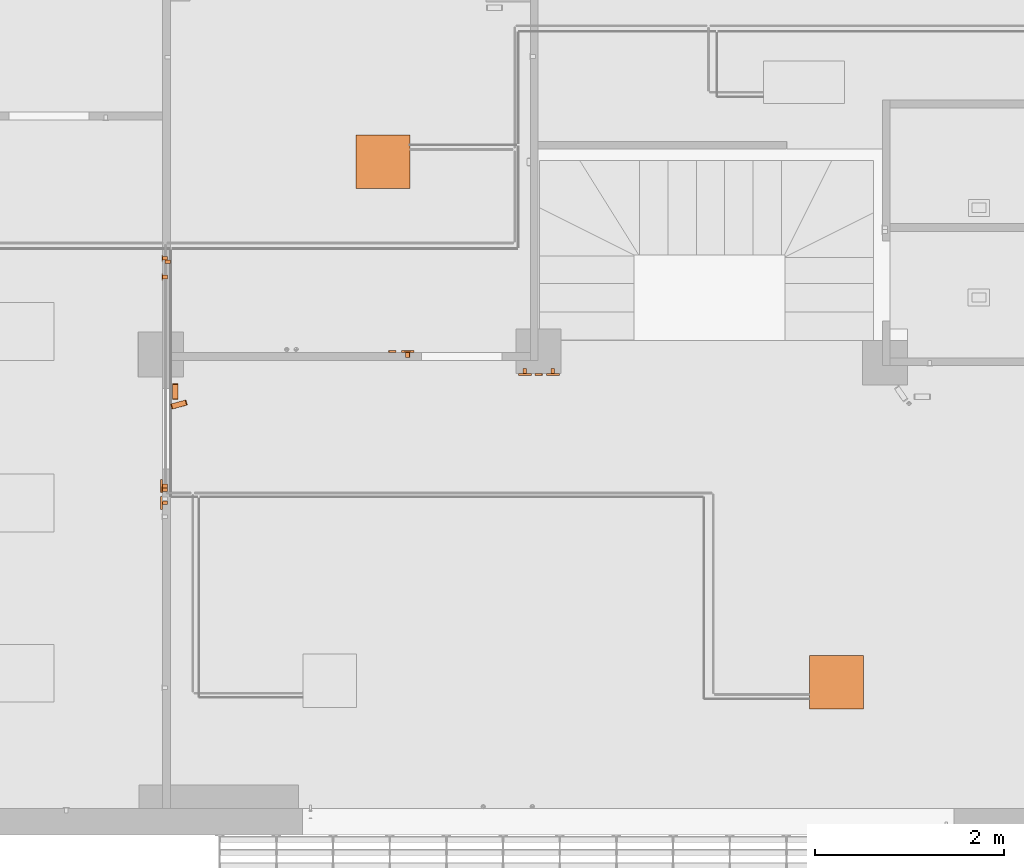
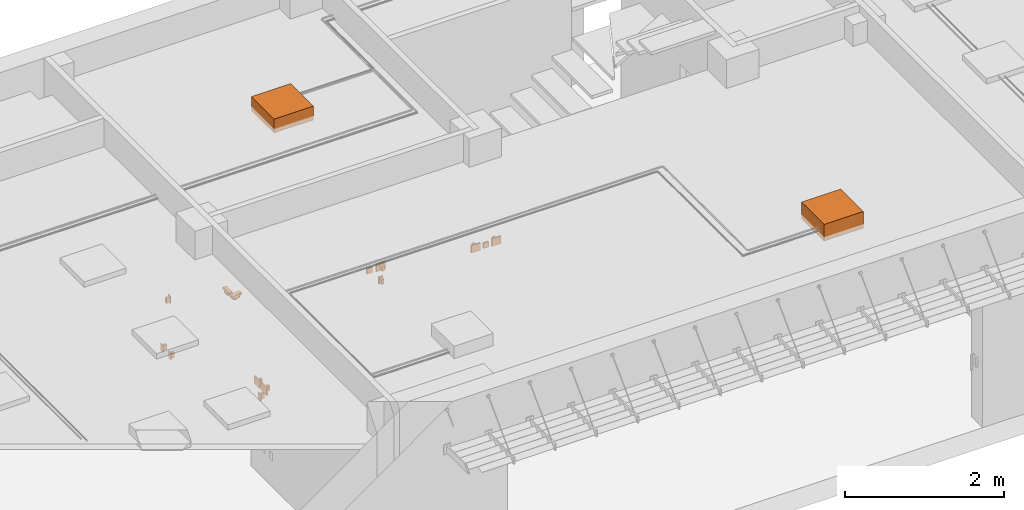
# One storey, part 21 of 24: 16 proxies.
"""IFC2X3 building model written with IfcOpenShell, lengths in millimetres."""

from ifc_helpers import new_model, entity, si_unit, converted_unit, derived_unit, direction, frame, frame_2d, origin, origin_2d_with_axis, place, context, subcontext, project, spatial, polyline, circle_curve, parameter, trimmed, segment, composite_curve, rectangle, circle, outline, extrude, source, transform, mapped, material, material_list, type_object, type_shapes, element, save


model = new_model("IFC2X3")

# Units and contexts
model_context = context("Model", 3, precision=0.01, world=origin(), true_north=direction((6.123031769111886e-17, 1.0)))
body_context = subcontext(model_context, "Body", "Model", "MODEL_VIEW")
ifc_project = project(units=[si_unit("LENGTHUNIT", "METRE", prefix="MILLI"), si_unit("AREAUNIT", "SQUARE_METRE"), si_unit("VOLUMEUNIT", "CUBIC_METRE"), converted_unit("PLANEANGLEUNIT", "DEGREE", entity("IfcRatioMeasure", 0.017453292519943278), si_unit("PLANEANGLEUNIT", "RADIAN"), dimensions=[0, 0, 0, 0, 0, 0, 0]), si_unit("MASSUNIT", "GRAM", prefix="KILO"), derived_unit("MASSDENSITYUNIT", [(si_unit("MASSUNIT", "GRAM", prefix="KILO"), 1), (si_unit("LENGTHUNIT", "METRE"), -3)]), derived_unit("MOMENTOFINERTIAUNIT", [(si_unit("LENGTHUNIT", "METRE"), 4)]), si_unit("TIMEUNIT", "SECOND"), si_unit("FREQUENCYUNIT", "HERTZ"), si_unit("THERMODYNAMICTEMPERATUREUNIT", "DEGREE_CELSIUS"), derived_unit("THERMALTRANSMITTANCEUNIT", [(si_unit("MASSUNIT", "GRAM", prefix="KILO"), 1), (si_unit("THERMODYNAMICTEMPERATUREUNIT", "KELVIN"), -1), (si_unit("TIMEUNIT", "SECOND"), -3)]), derived_unit("VOLUMETRICFLOWRATEUNIT", [(si_unit("LENGTHUNIT", "METRE"), 3), (si_unit("TIMEUNIT", "SECOND"), -1)]), derived_unit("MASSFLOWRATEUNIT", [(si_unit("MASSUNIT", "GRAM", prefix="KILO"), 1), (si_unit("TIMEUNIT", "SECOND"), -1)]), derived_unit("ROTATIONALFREQUENCYUNIT", [(si_unit("TIMEUNIT", "SECOND"), -1)]), si_unit("ELECTRICCURRENTUNIT", "AMPERE"), si_unit("ELECTRICVOLTAGEUNIT", "VOLT"), si_unit("POWERUNIT", "WATT"), si_unit("FORCEUNIT", "NEWTON", prefix="KILO"), si_unit("ILLUMINANCEUNIT", "LUX"), si_unit("LUMINOUSFLUXUNIT", "LUMEN"), si_unit("LUMINOUSINTENSITYUNIT", "CANDELA"), derived_unit("USERDEFINED", [(si_unit("MASSUNIT", "GRAM", prefix="KILO"), -1), (si_unit("LENGTHUNIT", "METRE"), -2), (si_unit("TIMEUNIT", "SECOND"), 3), (si_unit("LUMINOUSFLUXUNIT", "LUMEN"), 1)]), derived_unit("SOUNDPOWERUNIT", [(si_unit("MASSUNIT", "GRAM", prefix="KILO"), 1), (si_unit("LENGTHUNIT", "METRE"), 2), (si_unit("TIMEUNIT", "SECOND"), -3)]), derived_unit("SOUNDPRESSUREUNIT", [(si_unit("MASSUNIT", "GRAM", prefix="KILO"), 1), (si_unit("LENGTHUNIT", "METRE"), -1), (si_unit("TIMEUNIT", "SECOND"), -2)]), derived_unit("LINEARVELOCITYUNIT", [(si_unit("LENGTHUNIT", "METRE"), 1), (si_unit("TIMEUNIT", "SECOND"), -1)]), si_unit("PRESSUREUNIT", "PASCAL"), derived_unit("USERDEFINED", [(si_unit("LENGTHUNIT", "METRE"), -2), (si_unit("MASSUNIT", "GRAM", prefix="KILO"), 1), (si_unit("TIMEUNIT", "SECOND"), -2)]), derived_unit("LINEARFORCEUNIT", [(si_unit("MASSUNIT", "GRAM", prefix="KILO"), 1), (si_unit("LENGTHUNIT", "METRE"), 1), (si_unit("TIMEUNIT", "SECOND"), -2), (si_unit("LENGTHUNIT", "METRE"), -1)]), derived_unit("PLANARFORCEUNIT", [(si_unit("MASSUNIT", "GRAM", prefix="KILO"), 1), (si_unit("LENGTHUNIT", "METRE"), 1), (si_unit("TIMEUNIT", "SECOND"), -2), (si_unit("LENGTHUNIT", "METRE"), -2)])], contexts=[model_context])

# Site, building, storey
site_placement = place(None, origin())
site = spatial("IfcSite", under=ifc_project, at=site_placement, Name="Default", CompositionType="ELEMENT")
building_placement = place(site_placement, origin())
building = spatial("IfcBuilding", under=site, at=building_placement, CompositionType="ELEMENT")
storey_placement = place(building_placement, origin())
storey = spatial("IfcBuildingStorey", under=building, at=storey_placement, Name="Level 1", CompositionType="ELEMENT", Elevation=0.0)

# Proxies
ifc_material_1 = material(Name="<Unnamed>")
ifc_material_list_1 = material_list([ifc_material_1, ifc_material_1])
ifc_material_list_2 = material_list([ifc_material_1, ifc_material_1])
building_element_proxy_type_1 = type_object("IfcBuildingElementProxyType", Name="M_Receptacle - 220V:Standard:Standard : M_Receptacle - 220V:Standard", PredefinedType="NOTDEFINED", material=ifc_material_list_2)
shared_shape_1 = source(origin(), body_context, "Body", "SweptSolid", [
    extrude(rectangle(XDim=38.09999999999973, YDim=53.97500000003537, at=frame_2d((1.3500311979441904e-13, 0.0), x_axis=(1.0, 0.0))), frame((-3830.3682787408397, 2031.36724634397, 421.89999999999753), z_axis=(0.0, 0.0, 1.0), x_axis=(0.0, 1.0, 0.0)), (0.0, 0.0, 1.0), 76.20000000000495),
    extrude(rectangle(XDim=69.84999999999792, YDim=4.762499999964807, at=frame_2d((1.3855583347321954e-13, 2.708944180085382e-13), x_axis=(1.0, 0.0))), frame((-3859.7370287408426, 2031.36724634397, 402.84999999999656), z_axis=(0.0, 0.0, 1.0), x_axis=(0.0, 1.0, 0.0)), (0.0, 0.0, 1.0), 114.30000000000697),
])
type_shapes(building_element_proxy_type_1, [shared_shape_1])
proxy_1_placement = place(storey_placement, origin())
element("IfcBuildingElementProxy", 1, at=proxy_1_placement, inside=storey, type_object=building_element_proxy_type_1, material=ifc_material_list_1, Name="M_Receptacle - 220V:Standard:Standard : M_Receptacle - 220V:Standard:Standard:Standard : M_Receptacle - 220V:Standard : M_Receptacle - 220V:Standard:Standard : M_Receptacle - 220V:Standard", ObjectType="M_Receptacle - 220V:Standard:Standard : M_Receptacle - 220V:Standard:Standard:Standard : M_Receptacle - 220V:Standard : M_Receptacle - 220V:Standard:Standard : M_Receptacle - 220V:Standard", context=body_context, shape_type="MappedRepresentation", body=[
    mapped(shared_shape_1, transform((0.0, 0.0, 0.0), scale=1.0)),
])
ifc_material_list_3 = material_list([ifc_material_1, ifc_material_1])
ifc_material_list_4 = material_list([ifc_material_1, ifc_material_1])
building_element_proxy_type_2 = type_object("IfcBuildingElementProxyType", Name="M_Receptacle - 220V:Standard:Standard : M_Receptacle - 220V:Standard", PredefinedType="NOTDEFINED", material=ifc_material_list_4)
shared_shape_2 = source(origin(), body_context, "Body", "SweptSolid", [
    extrude(rectangle(XDim=38.09999999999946, YDim=53.97500000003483, at=frame_2d((0.0, 2.7000623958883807e-13), x_axis=(1.0, 0.0))), frame((-3830.36827874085, 1831.36724634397, 421.89999999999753), z_axis=(0.0, 0.0, 1.0), x_axis=(0.0, 1.0, 0.0)), (0.0, 0.0, 1.0), 76.20000000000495),
    extrude(rectangle(XDim=69.84999999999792, YDim=4.762499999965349, at=frame_2d((1.3855583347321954e-13, 0.0), x_axis=(1.0, 0.0))), frame((-3859.737028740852, 1831.36724634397, 402.84999999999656), z_axis=(0.0, 0.0, 1.0), x_axis=(0.0, 1.0, 0.0)), (0.0, 0.0, 1.0), 114.30000000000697),
])
type_shapes(building_element_proxy_type_2, [shared_shape_2])
proxy_2_placement = place(storey_placement, origin())
element("IfcBuildingElementProxy", 2, at=proxy_2_placement, inside=storey, type_object=building_element_proxy_type_2, material=ifc_material_list_3, Name="M_Receptacle - 220V:Standard:Standard : M_Receptacle - 220V:Standard:Standard:Standard : M_Receptacle - 220V:Standard : M_Receptacle - 220V:Standard:Standard : M_Receptacle - 220V:Standard", ObjectType="M_Receptacle - 220V:Standard:Standard : M_Receptacle - 220V:Standard:Standard:Standard : M_Receptacle - 220V:Standard : M_Receptacle - 220V:Standard:Standard : M_Receptacle - 220V:Standard", context=body_context, shape_type="MappedRepresentation", body=[
    mapped(shared_shape_2, transform((0.0, 0.0, 0.0), scale=1.0)),
])
ifc_material_list_5 = material_list([ifc_material_1, ifc_material_1])
ifc_material_list_6 = material_list([ifc_material_1, ifc_material_1])
building_element_proxy_type_3 = type_object("IfcBuildingElementProxyType", Name="M_Lighting Switches:Three Way:Three Way : M_Lighting Switches:Three Way", PredefinedType="NOTDEFINED", material=ifc_material_list_6)
shared_shape_3 = source(origin(), body_context, "Body", "SweptSolid", [
    extrude(rectangle(XDim=38.099999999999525, YDim=53.97500000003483, at=frame_2d((3.375077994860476e-14, 2.7000623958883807e-13), x_axis=(1.0, 0.0))), frame((-3830.36827874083, -422.95489747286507, 1161.8999999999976), z_axis=(0.0, 0.0, 1.0), x_axis=(0.0, 1.0, 0.0)), (0.0, 0.0, 1.0), 76.20000000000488),
    extrude(rectangle(XDim=69.849999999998, YDim=4.762499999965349, at=frame_2d((-3.197442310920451e-14, 0.0), x_axis=(1.0, 0.0))), frame((-3859.7370287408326, -422.954897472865, 1142.8499999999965), z_axis=(0.0, 0.0, 1.0), x_axis=(0.0, 1.0, 0.0)), (0.0, 0.0, 1.0), 114.30000000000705),
])
type_shapes(building_element_proxy_type_3, [shared_shape_3])
proxy_3_placement = place(storey_placement, origin())
element("IfcBuildingElementProxy", 3, at=proxy_3_placement, inside=storey, type_object=building_element_proxy_type_3, material=ifc_material_list_5, Name="M_Lighting Switches:Three Way:Three Way : M_Lighting Switches:Three Way:Three Way:Three Way : M_Lighting Switches:Three Way : M_Lighting Switches:Three Way:Three Way : M_Lighting Switches:Three Way", ObjectType="M_Lighting Switches:Three Way:Three Way : M_Lighting Switches:Three Way:Three Way:Three Way : M_Lighting Switches:Three Way : M_Lighting Switches:Three Way:Three Way : M_Lighting Switches:Three Way", context=body_context, shape_type="MappedRepresentation", body=[
    mapped(shared_shape_3, transform((0.0, 0.0, 0.0), scale=1.0)),
])
ifc_material_list_7 = material_list([ifc_material_1, ifc_material_1])
ifc_material_list_8 = material_list([ifc_material_1, ifc_material_1])
building_element_proxy_type_4 = type_object("IfcBuildingElementProxyType", Name="Thermostat Kripis v3:Standard:Standard : Thermostat Kripis v3:Standard", PredefinedType="NOTDEFINED", material=ifc_material_list_8)
shared_shape_4 = source(origin(), body_context, "Body", "SweptSolid", [
    extrude(rectangle(XDim=38.09999999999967, YDim=53.97500000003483, at=frame_2d((3.375077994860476e-14, 2.7000623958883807e-13), x_axis=(1.0, 0.0))), frame((-3830.36827874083, -557.929558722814, 1361.8999999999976), z_axis=(0.0, 0.0, 1.0), x_axis=(0.0, 1.0, 0.0)), (0.0, 0.0, 1.0), 76.20000000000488),
    extrude(rectangle(XDim=136.02499999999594, YDim=20.73336860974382, at=frame_2d((3.552713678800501e-14, 0.0), x_axis=(1.0, 0.0))), frame((-3867.7224630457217, -559.9920587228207, 1342.8499999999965), z_axis=(0.0, 0.0, 1.0), x_axis=(0.0, 1.0, 0.0)), (0.0, 0.0, 1.0), 114.30000000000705),
])
type_shapes(building_element_proxy_type_4, [shared_shape_4])
proxy_4_placement = place(storey_placement, origin())
element("IfcBuildingElementProxy", 4, at=proxy_4_placement, inside=storey, type_object=building_element_proxy_type_4, material=ifc_material_list_7, Name="Thermostat Kripis v3:Standard:Standard : Thermostat Kripis v3:Standard:Standard:Standard : Thermostat Kripis v3:Standard : Thermostat Kripis v3:Standard:Standard : Thermostat Kripis v3:Standard", ObjectType="Thermostat Kripis v3:Standard:Standard : Thermostat Kripis v3:Standard:Standard:Standard : Thermostat Kripis v3:Standard : Thermostat Kripis v3:Standard:Standard : Thermostat Kripis v3:Standard", context=body_context, shape_type="MappedRepresentation", body=[
    mapped(shared_shape_4, transform((0.0, 0.0, 0.0), scale=1.0)),
])
ifc_material_list_9 = material_list([ifc_material_1, ifc_material_1])
ifc_material_list_10 = material_list([ifc_material_1, ifc_material_1])
building_element_proxy_type_5 = type_object("IfcBuildingElementProxyType", Name="Thermostat Kripis v3:Standard:Standard : Thermostat Kripis v3:Standard", PredefinedType="NOTDEFINED", material=ifc_material_list_10)
shared_shape_5 = source(origin(), body_context, "Body", "SweptSolid", [
    extrude(rectangle(XDim=38.099999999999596, YDim=53.97500000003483, at=frame_2d((0.0, 2.7000623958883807e-13), x_axis=(1.0, 0.0))), frame((-3830.3682787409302, -380.838486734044, 1361.8999999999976), z_axis=(0.0, 0.0, 1.0), x_axis=(0.0, 1.0, 0.0)), (0.0, 0.0, 1.0), 76.20000000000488),
    extrude(rectangle(XDim=136.02499999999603, YDim=20.73336860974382, at=origin_2d_with_axis()), frame((-3867.7224630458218, -382.9009867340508, 1342.8499999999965), z_axis=(0.0, 0.0, 1.0), x_axis=(0.0, 1.0, 0.0)), (0.0, 0.0, 1.0), 114.30000000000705),
])
type_shapes(building_element_proxy_type_5, [shared_shape_5])
proxy_5_placement = place(storey_placement, origin())
element("IfcBuildingElementProxy", 5, at=proxy_5_placement, inside=storey, type_object=building_element_proxy_type_5, material=ifc_material_list_9, Name="Thermostat Kripis v3:Standard:Standard : Thermostat Kripis v3:Standard:Standard:Standard : Thermostat Kripis v3:Standard : Thermostat Kripis v3:Standard:Standard : Thermostat Kripis v3:Standard", ObjectType="Thermostat Kripis v3:Standard:Standard : Thermostat Kripis v3:Standard:Standard:Standard : Thermostat Kripis v3:Standard : Thermostat Kripis v3:Standard:Standard : Thermostat Kripis v3:Standard", context=body_context, shape_type="MappedRepresentation", body=[
    mapped(shared_shape_5, transform((0.0, 0.0, 0.0), scale=1.0)),
])
building_element_proxy_type_6 = type_object("IfcBuildingElementProxyType", Name="Indoor LG 4way simple box KRIPIS v3 SYSTEMS:ARNU07GTRC4:ARNU07GTRC4 : Indoor LG 4way simple box KRIPIS v3 SYSTEMS:ARNU07GTRC4", PredefinedType="NOTDEFINED", material=ifc_material_1)
shared_shape_6 = source(origin(), body_context, "Body", "SweptSolid", [
    extrude(rectangle(XDim=570.0000000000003, YDim=569.9999999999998, at=origin_2d_with_axis()), frame((-1524.85540967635, 3051.41352676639, 2590.0), z_axis=(0.0, 0.0, 1.0), x_axis=(0.0, -1.0, 0.0)), (0.0, 0.0, 1.0), 214.00000000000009),
])
type_shapes(building_element_proxy_type_6, [shared_shape_6])
proxy_6_placement = place(storey_placement, origin())
element("IfcBuildingElementProxy", 6, at=proxy_6_placement, inside=storey, type_object=building_element_proxy_type_6, material=ifc_material_1, context=body_context, shape_type="MappedRepresentation", body=[
    mapped(shared_shape_6, transform((0.0, 0.0, 0.0), scale=1.0)),
])
ifc_material_list_11 = material_list([ifc_material_1, ifc_material_1])
ifc_material_list_12 = material_list([ifc_material_1, ifc_material_1])
building_element_proxy_type_7 = type_object("IfcBuildingElementProxyType", Name="M_Lighting Switches:Single Pole:Single Pole : M_Lighting Switches:Single Pole", PredefinedType="NOTDEFINED", material=ifc_material_list_12)
shared_shape_7 = source(origin(), body_context, "Body", "SweptSolid", [
    extrude(rectangle(XDim=38.09999999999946, YDim=53.975000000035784, at=frame_2d((0.0, -6.750155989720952e-14), x_axis=(1.0, 0.0))), frame((-1263.46254814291, 1004.3797463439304, 1161.8999999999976)), (0.0, 0.0, 1.0), 76.20000000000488),
    extrude(rectangle(XDim=69.8499999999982, YDim=4.762499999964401, at=frame_2d((0.0, -6.772360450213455e-14), x_axis=(1.0, 0.0))), frame((-1263.46254814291, 1033.7484963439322, 1142.8499999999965)), (0.0, 0.0, 1.0), 114.30000000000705),
])
type_shapes(building_element_proxy_type_7, [shared_shape_7])
proxy_7_placement = place(storey_placement, origin())
element("IfcBuildingElementProxy", 7, at=proxy_7_placement, inside=storey, type_object=building_element_proxy_type_7, material=ifc_material_list_11, Name="M_Lighting Switches:Single Pole:Single Pole : M_Lighting Switches:Single Pole:Single Pole:Single Pole : M_Lighting Switches:Single Pole : M_Lighting Switches:Single Pole:Single Pole : M_Lighting Switches:Single Pole", ObjectType="M_Lighting Switches:Single Pole:Single Pole : M_Lighting Switches:Single Pole:Single Pole:Single Pole : M_Lighting Switches:Single Pole : M_Lighting Switches:Single Pole:Single Pole : M_Lighting Switches:Single Pole", context=body_context, shape_type="MappedRepresentation", body=[
    mapped(shared_shape_7, transform((0.0, 0.0, 0.0), scale=1.0)),
])
ifc_material_list_13 = material_list([ifc_material_1, ifc_material_1])
ifc_material_list_14 = material_list([ifc_material_1, ifc_material_1])
building_element_proxy_type_8 = type_object("IfcBuildingElementProxyType", Name="M_Lighting Switches:Single Pole:Single Pole : M_Lighting Switches:Single Pole", PredefinedType="NOTDEFINED", material=ifc_material_list_14)
shared_shape_8 = source(origin(), body_context, "Body", "SweptSolid", [
    extrude(rectangle(XDim=38.09999999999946, YDim=53.97500000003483, at=frame_2d((0.0, -2.7000623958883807e-13), x_axis=(1.0, 0.0))), frame((-3802.34327874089, 1991.36724634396, 1161.8999999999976), z_axis=(0.0, 0.0, 1.0), x_axis=(0.0, -1.0, 0.0)), (0.0, 0.0, 1.0), 76.20000000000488),
    extrude(rectangle(XDim=69.8499999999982, YDim=4.762499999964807, at=frame_2d((0.0, -2.708944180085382e-13), x_axis=(1.0, 0.0))), frame((-3772.974528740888, 1991.36724634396, 1142.8499999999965), z_axis=(0.0, 0.0, 1.0), x_axis=(0.0, -1.0, 0.0)), (0.0, 0.0, 1.0), 114.30000000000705),
])
type_shapes(building_element_proxy_type_8, [shared_shape_8])
proxy_8_placement = place(storey_placement, origin())
element("IfcBuildingElementProxy", 8, at=proxy_8_placement, inside=storey, type_object=building_element_proxy_type_8, material=ifc_material_list_13, Name="M_Lighting Switches:Single Pole:Single Pole : M_Lighting Switches:Single Pole:Single Pole:Single Pole : M_Lighting Switches:Single Pole : M_Lighting Switches:Single Pole:Single Pole : M_Lighting Switches:Single Pole", ObjectType="M_Lighting Switches:Single Pole:Single Pole : M_Lighting Switches:Single Pole:Single Pole:Single Pole : M_Lighting Switches:Single Pole : M_Lighting Switches:Single Pole:Single Pole : M_Lighting Switches:Single Pole", context=body_context, shape_type="MappedRepresentation", body=[
    mapped(shared_shape_8, transform((0.0, 0.0, 0.0), scale=1.0)),
])
ifc_material_list_15 = material_list([ifc_material_1, ifc_material_1])
ifc_material_list_16 = material_list([ifc_material_1, ifc_material_1])
building_element_proxy_type_9 = type_object("IfcBuildingElementProxyType", Name="Thermostat Kripis v3:Standard:Standard : Thermostat Kripis v3:Standard", PredefinedType="NOTDEFINED", material=ifc_material_list_16)
shared_shape_9 = source(origin(), body_context, "Body", "SweptSolid", [
    extrude(rectangle(XDim=38.09999999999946, YDim=53.975000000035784, at=frame_2d((0.0, 6.750155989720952e-14), x_axis=(1.0, 0.0))), frame((-1258.46254814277, 1004.3797463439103, 1361.8999999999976)), (0.0, 0.0, 1.0), 76.20000000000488),
    extrude(rectangle(XDim=136.024999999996, YDim=20.73336860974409, at=frame_2d((-6.394884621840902e-14, 0.0), x_axis=(1.0, 0.0))), frame((-1260.5250481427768, 1041.733930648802, 1342.8499999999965)), (0.0, 0.0, 1.0), 114.30000000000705),
])
type_shapes(building_element_proxy_type_9, [shared_shape_9])
proxy_9_placement = place(storey_placement, origin())
element("IfcBuildingElementProxy", 9, at=proxy_9_placement, inside=storey, type_object=building_element_proxy_type_9, material=ifc_material_list_15, Name="Thermostat Kripis v3:Standard:Standard : Thermostat Kripis v3:Standard:Standard:Standard : Thermostat Kripis v3:Standard : Thermostat Kripis v3:Standard:Standard : Thermostat Kripis v3:Standard", ObjectType="Thermostat Kripis v3:Standard:Standard : Thermostat Kripis v3:Standard:Standard:Standard : Thermostat Kripis v3:Standard : Thermostat Kripis v3:Standard:Standard : Thermostat Kripis v3:Standard", context=body_context, shape_type="MappedRepresentation", body=[
    mapped(shared_shape_9, transform((0.0, 0.0, 0.0), scale=1.0)),
])
building_element_proxy_type_10 = type_object("IfcBuildingElementProxyType", Name="Indoor LG 4way simple box KRIPIS v3 SYSTEMS:ARNU18GTQC4:ARNU18GTQC4 : Indoor LG 4way simple box KRIPIS v3 SYSTEMS:ARNU18GTQC4", PredefinedType="NOTDEFINED", material=ifc_material_1)
shared_shape_10 = source(origin(), body_context, "Body", "SweptSolid", [
    extrude(rectangle(XDim=570.0000000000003, YDim=570.0000000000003, at=origin_2d_with_axis()), frame((3278.2034311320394, -2458.3194789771, 2590.0), z_axis=(0.0, 0.0, 1.0), x_axis=(0.0, 1.0, 0.0)), (0.0, 0.0, 1.0), 256.0000000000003),
])
type_shapes(building_element_proxy_type_10, [shared_shape_10])
proxy_10_placement = place(storey_placement, origin())
element("IfcBuildingElementProxy", 10, at=proxy_10_placement, inside=storey, type_object=building_element_proxy_type_10, material=ifc_material_1, context=body_context, shape_type="MappedRepresentation", body=[
    mapped(shared_shape_10, transform((0.0, 0.0, 0.0), scale=1.0)),
])
ifc_material_list_17 = material_list([ifc_material_1, ifc_material_1])
ifc_material_list_18 = material_list([ifc_material_1, ifc_material_1])
building_element_proxy_type_11 = type_object("IfcBuildingElementProxyType", Name="Thermostat Kripis v3:Standard:Standard : Thermostat Kripis v3:Standard", PredefinedType="NOTDEFINED", material=ifc_material_list_18)
shared_shape_11 = source(origin(), body_context, "Body", "SweptSolid", [
    extrude(rectangle(XDim=38.09999999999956, YDim=53.97500000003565, at=frame_2d((1.7763568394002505e-14, 0.0), x_axis=(1.0, 0.0))), frame((273.537451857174, 834.5192197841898, 1361.8999999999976), z_axis=(0.0, 0.0, 1.0), x_axis=(-1.0, 0.0, 0.0)), (0.0, 0.0, 1.0), 76.20000000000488),
    extrude(rectangle(XDim=136.02499999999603, YDim=20.73336860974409, at=origin_2d_with_axis()), frame((275.5999518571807, 797.165035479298, 1342.8499999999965), z_axis=(0.0, 0.0, 1.0), x_axis=(-1.0, 0.0, 0.0)), (0.0, 0.0, 1.0), 114.30000000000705),
])
type_shapes(building_element_proxy_type_11, [shared_shape_11])
proxy_11_placement = place(storey_placement, origin())
element("IfcBuildingElementProxy", 11, at=proxy_11_placement, inside=storey, type_object=building_element_proxy_type_11, material=ifc_material_list_17, Name="Thermostat Kripis v3:Standard:Standard : Thermostat Kripis v3:Standard:Standard:Standard : Thermostat Kripis v3:Standard : Thermostat Kripis v3:Standard:Standard : Thermostat Kripis v3:Standard", ObjectType="Thermostat Kripis v3:Standard:Standard : Thermostat Kripis v3:Standard:Standard:Standard : Thermostat Kripis v3:Standard : Thermostat Kripis v3:Standard:Standard : Thermostat Kripis v3:Standard", context=body_context, shape_type="MappedRepresentation", body=[
    mapped(shared_shape_11, transform((0.0, 0.0, 0.0), scale=1.0)),
])
ifc_material_list_19 = material_list([ifc_material_1, ifc_material_1])
ifc_material_list_20 = material_list([ifc_material_1, ifc_material_1])
building_element_proxy_type_12 = type_object("IfcBuildingElementProxyType", Name="Thermostat Kripis v3:Standard:Standard : Thermostat Kripis v3:Standard", PredefinedType="NOTDEFINED", material=ifc_material_list_20)
shared_shape_12 = source(origin(), body_context, "Body", "SweptSolid", [
    extrude(rectangle(XDim=38.0999999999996, YDim=53.97500000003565, at=frame_2d((-3.552713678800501e-15, 0.0), x_axis=(1.0, 0.0))), frame((-23.46254814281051, 834.5192197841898, 1361.8999999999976), z_axis=(0.0, 0.0, 1.0), x_axis=(-1.0, 0.0, 0.0)), (0.0, 0.0, 1.0), 76.20000000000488),
    extrude(rectangle(XDim=136.02499999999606, YDim=20.73336860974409, at=frame_2d((-7.105427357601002e-15, 0.0), x_axis=(1.0, 0.0))), frame((-21.400048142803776, 797.165035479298, 1342.8499999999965), z_axis=(0.0, 0.0, 1.0), x_axis=(-1.0, 0.0, 0.0)), (0.0, 0.0, 1.0), 114.30000000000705),
])
type_shapes(building_element_proxy_type_12, [shared_shape_12])
proxy_12_placement = place(storey_placement, origin())
element("IfcBuildingElementProxy", 12, at=proxy_12_placement, inside=storey, type_object=building_element_proxy_type_12, material=ifc_material_list_19, Name="Thermostat Kripis v3:Standard:Standard : Thermostat Kripis v3:Standard:Standard:Standard : Thermostat Kripis v3:Standard : Thermostat Kripis v3:Standard:Standard : Thermostat Kripis v3:Standard", ObjectType="Thermostat Kripis v3:Standard:Standard : Thermostat Kripis v3:Standard:Standard:Standard : Thermostat Kripis v3:Standard : Thermostat Kripis v3:Standard:Standard : Thermostat Kripis v3:Standard", context=body_context, shape_type="MappedRepresentation", body=[
    mapped(shared_shape_12, transform((0.0, 0.0, 0.0), scale=1.0)),
])
ifc_material_list_21 = material_list([ifc_material_1, ifc_material_1, ifc_material_1])
ifc_material_list_22 = material_list([ifc_material_1, ifc_material_1, ifc_material_1])
building_element_proxy_type_13 = type_object("IfcBuildingElementProxyType", Name="Plugwise SENSE v1:Plugwise SENSE v1:Plugwise SENSE v1 : Plugwise SENSE v1:Plugwise SENSE v1", PredefinedType="NOTDEFINED", material=ifc_material_list_22)
shared_shape_13 = source(origin(), body_context, "Body", "SweptSolid", [
    extrude(circle(Radius=8.72363253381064, at=origin_2d_with_axis()), frame((-1423.3810878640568, 1030.36724634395, 1392.4193210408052), z_axis=(0.0, 1.0, 0.0), x_axis=(1.0, 0.0, 0.0)), (0.0, 0.0, 1.0), 1.0000000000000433),
    extrude(rectangle(XDim=1.0000000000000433, YDim=4.687500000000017, at=origin_2d_with_axis()), frame((-1423.2938623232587, 1030.8672463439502, 1410.4777019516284), z_axis=(0.0, 0.0, 1.0), x_axis=(0.0, -1.0, 0.0)), (0.0, 0.0, 1.0), 4.999999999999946),
    extrude(outline(composite_curve([segment(trimmed(circle_curve(frame_2d((35.0, 37.74999999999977), x_axis=(1.0, 0.0)), 4.99999999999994), [parameter(0.0)], [parameter(90.00000000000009)], True, "PARAMETER"), True, "CONTINUOUS"), segment(polyline([(35.0, 42.749999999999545), (-35.0, 42.74999999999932)]), True, "CONTINUOUS"), segment(trimmed(circle_curve(frame_2d((-35.0, 37.74999999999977), x_axis=(1.0, 0.0)), 5.00000000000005), [parameter(90.00000000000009)], [parameter(180.00000000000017)], True, "PARAMETER"), True, "CONTINUOUS"), segment(polyline([(-40.0, 37.74999999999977), (-40.0, -37.25000000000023)]), True, "CONTINUOUS"), segment(trimmed(circle_curve(frame_2d((-33.90000000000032, -37.25000000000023), x_axis=(1.0, 0.0)), 6.10000000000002), [parameter(180.00000000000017)], [parameter(259.6111421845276)], True, "PARAMETER"), True, "CONTINUOUS"), segment(polyline([(-35.0, -43.25000000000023), (35.0, -43.25000000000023)]), True, "CONTINUOUS"), segment(trimmed(circle_curve(frame_2d((35.0, -38.16666666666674), x_axis=(1.0, 0.0)), 5.08333333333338), [parameter(269.9999999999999)], [parameter(10.388857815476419)], True, "PARAMETER"), True, "CONTINUOUS"), segment(polyline([(40.0, -37.249999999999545), (40.0, 37.74999999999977)]), True, "CONTINUOUS")], self_intersect=False)), frame((-1423.46254814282, 1030.36724634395, 1394.2884538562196), z_axis=(0.0, 1.0, 0.0), x_axis=(1.0, 0.0, 0.0)), (0.0, 0.0, 1.0), 20.999999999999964),
])
type_shapes(building_element_proxy_type_13, [shared_shape_13])
proxy_13_placement = place(storey_placement, origin())
element("IfcBuildingElementProxy", 13, at=proxy_13_placement, inside=storey, type_object=building_element_proxy_type_13, material=ifc_material_list_21, Name="Plugwise SENSE v1:Plugwise SENSE v1:Plugwise SENSE v1 : Plugwise SENSE v1:Plugwise SENSE v1:Plugwise SENSE v1:Plugwise SENSE v1 : Plugwise SENSE v1:Plugwise SENSE v1 : Plugwise SENSE v1:Plugwise SENSE v1:Plugwise SENSE v1 : Plugwise SENSE v1:Plugwise SENSE v1", ObjectType="Plugwise SENSE v1:Plugwise SENSE v1:Plugwise SENSE v1 : Plugwise SENSE v1:Plugwise SENSE v1:Plugwise SENSE v1:Plugwise SENSE v1 : Plugwise SENSE v1:Plugwise SENSE v1 : Plugwise SENSE v1:Plugwise SENSE v1:Plugwise SENSE v1 : Plugwise SENSE v1:Plugwise SENSE v1", context=body_context, shape_type="MappedRepresentation", body=[
    mapped(shared_shape_13, transform((0.0, 0.0, 0.0), scale=1.0)),
])
ifc_material_2 = material(Name="Plastic - Sony - Black_Matt")
ifc_material_list_23 = material_list([ifc_material_2, ifc_material_2, ifc_material_2, ifc_material_2])
ifc_material_list_24 = material_list([ifc_material_2, ifc_material_2, ifc_material_2, ifc_material_2])
building_element_proxy_type_14 = type_object("IfcBuildingElementProxyType", Name="Camera ORBBEC v1:Camera ORBBEC v1:Camera ORBBEC v1 : Camera ORBBEC v1:Camera ORBBEC v1", PredefinedType="NOTDEFINED", material=ifc_material_list_24)
shared_shape_14 = source(origin(), body_context, "Body", "SweptSolid", [
    extrude(circle(Radius=9.99999999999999, at=frame_2d((2.736154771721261e-15, 0.0), x_axis=(1.0, 0.0))), frame((-3695.542996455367, 665.7769245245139, 2147.045539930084), z_axis=(0.9999872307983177, -0.005053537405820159, 0.0), x_axis=(0.005053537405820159, 0.9999872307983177, 0.0)), (0.0, 0.0, 1.0), 2.0000000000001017),
    extrude(circle(Radius=9.99999999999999, at=origin_2d_with_axis()), frame((-3695.997814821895, 575.7780737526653, 2147.0455399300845), z_axis=(0.9999872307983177, -0.005053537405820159, 0.0), x_axis=(0.005053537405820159, 0.9999872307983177, 0.0)), (0.0, 0.0, 1.0), 2.0000000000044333),
    extrude(circle(Radius=9.99999999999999, at=frame_2d((2.736154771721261e-15, 0.0), x_axis=(1.0, 0.0))), frame((-3695.726187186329, 629.5273874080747, 2147.045539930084), z_axis=(0.9999872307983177, -0.005053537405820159, 0.0), x_axis=(0.005053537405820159, 0.9999872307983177, 0.0)), (0.0, 0.0, 1.0), 2.0000000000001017),
    extrude(outline(polyline([(-57.9135948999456, -65.92181708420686), (-37.91365874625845, -65.92181708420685), (-11.12295556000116, -19.51836546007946), (-2.1516879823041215, -24.69786307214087), (-14.651568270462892, -46.348567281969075), (2.6689950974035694, -56.348471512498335), (50.168540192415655, 25.924204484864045), (32.847976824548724, 35.92410871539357), (20.34809653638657, 14.273404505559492), (11.376846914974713, 19.452891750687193), (38.08558547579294, 65.7143746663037), (28.08538994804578, 83.03477906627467), (8.085693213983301, 83.03477906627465), (-67.91365874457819, -48.60164076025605), (-57.9135948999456, -65.92181708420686)])), frame((-3751.7825018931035, 618.5254084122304, 2130.4815720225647), z_axis=(0.9999872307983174, -0.0050535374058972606, 0.0), x_axis=(0.002526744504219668, 0.4999888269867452, -0.8660281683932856)), (0.0, 0.0, 1.0), 56.00000000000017),
])
type_shapes(building_element_proxy_type_14, [shared_shape_14])
proxy_14_placement = place(storey_placement, origin())
element("IfcBuildingElementProxy", 14, at=proxy_14_placement, inside=storey, type_object=building_element_proxy_type_14, material=ifc_material_list_23, Name="Camera ORBBEC v1:Camera ORBBEC v1:Camera ORBBEC v1 : Camera ORBBEC v1:Camera ORBBEC v1:Camera ORBBEC v1:Camera ORBBEC v1 : Camera ORBBEC v1:Camera ORBBEC v1 : Camera ORBBEC v1:Camera ORBBEC v1:Camera ORBBEC v1 : Camera ORBBEC v1:Camera ORBBEC v1", ObjectType="Camera ORBBEC v1:Camera ORBBEC v1:Camera ORBBEC v1 : Camera ORBBEC v1:Camera ORBBEC v1:Camera ORBBEC v1:Camera ORBBEC v1 : Camera ORBBEC v1:Camera ORBBEC v1 : Camera ORBBEC v1:Camera ORBBEC v1:Camera ORBBEC v1 : Camera ORBBEC v1:Camera ORBBEC v1", context=body_context, shape_type="MappedRepresentation", body=[
    mapped(shared_shape_14, transform((0.0, 0.0, 0.0), scale=1.0)),
])
ifc_material_list_25 = material_list([ifc_material_2, ifc_material_2, ifc_material_2, ifc_material_2])
ifc_material_list_26 = material_list([ifc_material_2, ifc_material_2, ifc_material_2, ifc_material_2])
building_element_proxy_type_15 = type_object("IfcBuildingElementProxyType", Name="Camera ORBBEC v1:Camera ORBBEC v1:Camera ORBBEC v1 : Camera ORBBEC v1:Camera ORBBEC v1", PredefinedType="NOTDEFINED", material=ifc_material_list_26)
shared_shape_15 = source(origin(), body_context, "Body", "SweptSolid", [
    extrude(circle(Radius=9.99999999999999, at=frame_2d((-1.751666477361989e-14, 0.0), x_axis=(1.0, 0.0))), frame((-3629.9907048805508, 464.67048783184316, 2147.045539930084), z_axis=(-0.2588190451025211, 0.9659258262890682, 0.0), x_axis=(0.9659258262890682, 0.2588190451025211, 0.0)), (0.0, 0.0, 1.0), 2.000000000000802),
    extrude(circle(Radius=9.99999999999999, at=origin_2d_with_axis()), frame((-3716.9240292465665, 441.3767737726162, 2147.0455399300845), z_axis=(-0.2588190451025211, 0.9659258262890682, 0.0), x_axis=(0.9659258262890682, 0.2588190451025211, 0.0)), (0.0, 0.0, 1.0), 2.000000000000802),
    extrude(circle(Radius=9.99999999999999, at=frame_2d((-1.751666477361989e-14, 0.0), x_axis=(1.0, 0.0))), frame((-3665.005516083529, 455.28829744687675, 2147.045539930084), z_axis=(-0.2588190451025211, 0.9659258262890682, 0.0), x_axis=(0.9659258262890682, 0.2588190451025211, 0.0)), (0.0, 0.0, 1.0), 2.000000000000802),
    extrude(outline(polyline([(8.086050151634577, -83.03474694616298), (28.086050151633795, -83.03474694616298), (38.086050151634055, -65.71423887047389), (11.376977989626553, -19.45276886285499), (20.34812115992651, -14.273276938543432), (32.84812115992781, -35.9239120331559), (50.16862923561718, -25.923912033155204), (2.668629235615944, 56.348501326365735), (-14.651878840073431, 46.34850132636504), (-2.1518788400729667, 24.697866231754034), (-11.12302201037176, 19.518374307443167), (-37.91394984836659, 65.92162250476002), (-57.91394984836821, 65.92162250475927), (-67.91394984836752, 48.60111442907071), (8.086050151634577, -83.03474694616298)])), frame((-3676.4237053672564, 454.29935521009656, 2130.4815325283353), z_axis=(-0.25881904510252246, 0.965925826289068, 0.0), x_axis=(0.482962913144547, 0.12940952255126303, -0.8660254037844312)), (0.0, 0.0, 1.0), 55.99999999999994),
])
type_shapes(building_element_proxy_type_15, [shared_shape_15])
proxy_15_placement = place(storey_placement, origin())
element("IfcBuildingElementProxy", 15, at=proxy_15_placement, inside=storey, type_object=building_element_proxy_type_15, material=ifc_material_list_25, Name="Camera ORBBEC v1:Camera ORBBEC v1:Camera ORBBEC v1 : Camera ORBBEC v1:Camera ORBBEC v1:Camera ORBBEC v1:Camera ORBBEC v1 : Camera ORBBEC v1:Camera ORBBEC v1 : Camera ORBBEC v1:Camera ORBBEC v1:Camera ORBBEC v1 : Camera ORBBEC v1:Camera ORBBEC v1", ObjectType="Camera ORBBEC v1:Camera ORBBEC v1:Camera ORBBEC v1 : Camera ORBBEC v1:Camera ORBBEC v1:Camera ORBBEC v1:Camera ORBBEC v1 : Camera ORBBEC v1:Camera ORBBEC v1 : Camera ORBBEC v1:Camera ORBBEC v1:Camera ORBBEC v1 : Camera ORBBEC v1:Camera ORBBEC v1", context=body_context, shape_type="MappedRepresentation", body=[
    mapped(shared_shape_15, transform((0.0, 0.0, 0.0), scale=1.0)),
])
ifc_material_list_27 = material_list([ifc_material_1, ifc_material_1, ifc_material_1])
ifc_material_list_28 = material_list([ifc_material_1, ifc_material_1, ifc_material_1])
building_element_proxy_type_16 = type_object("IfcBuildingElementProxyType", Name="Plugwise SENSE v1:Plugwise SENSE v1:Plugwise SENSE v1 : Plugwise SENSE v1:Plugwise SENSE v1", PredefinedType="NOTDEFINED", material=ifc_material_list_28)
shared_shape_16 = source(origin(), body_context, "Body", "SweptSolid", [
    extrude(circle(Radius=8.72363253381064, at=origin_2d_with_axis()), frame((124.7256815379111, 786.531719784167, 1392.4193210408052), z_axis=(0.0, 1.0, 0.0), x_axis=(1.0, 0.0, 0.0)), (0.0, 0.0, 1.0), 1.0000000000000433),
    extrude(rectangle(XDim=1.0000000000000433, YDim=4.6875, at=frame_2d((0.0, 8.43769498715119e-15), x_axis=(1.0, 0.0))), frame((124.81290707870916, 787.0317197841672, 1410.4777019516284), z_axis=(0.0, 0.0, 1.0), x_axis=(0.0, -1.0, 0.0)), (0.0, 0.0, 1.0), 4.999999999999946),
    extrude(outline(composite_curve([segment(trimmed(circle_curve(frame_2d((35.0, 37.74999999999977), x_axis=(1.0, 0.0)), 4.99999999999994), [parameter(0.0)], [parameter(90.00000000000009)], True, "PARAMETER"), True, "CONTINUOUS"), segment(polyline([(35.0, 42.749999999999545), (-35.0, 42.74999999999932)]), True, "CONTINUOUS"), segment(trimmed(circle_curve(frame_2d((-35.0, 37.74999999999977), x_axis=(1.0, 0.0)), 5.00000000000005), [parameter(90.00000000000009)], [parameter(180.00000000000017)], True, "PARAMETER"), True, "CONTINUOUS"), segment(polyline([(-40.0, 37.74999999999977), (-40.0, -37.25000000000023)]), True, "CONTINUOUS"), segment(trimmed(circle_curve(frame_2d((-33.899999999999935, -37.25000000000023), x_axis=(1.0, 0.0)), 6.10000000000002), [parameter(180.00000000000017)], [parameter(259.6111421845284)], True, "PARAMETER"), True, "CONTINUOUS"), segment(polyline([(-35.0, -43.25000000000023), (35.0, -43.25000000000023)]), True, "CONTINUOUS"), segment(trimmed(circle_curve(frame_2d((35.0, -38.16666666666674), x_axis=(1.0, 0.0)), 5.08333333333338), [parameter(269.99999999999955)], [parameter(10.38885781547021)], True, "PARAMETER"), True, "CONTINUOUS"), segment(polyline([(40.0, -37.25), (40.0, 37.74999999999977)]), True, "CONTINUOUS")], self_intersect=False)), frame((124.64422125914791, 786.531719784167, 1394.2884538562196), z_axis=(0.0, 1.0, 0.0), x_axis=(1.0, 0.0, 0.0)), (0.0, 0.0, 1.0), 20.999999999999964),
])
type_shapes(building_element_proxy_type_16, [shared_shape_16])
proxy_16_placement = place(storey_placement, origin())
element("IfcBuildingElementProxy", 16, at=proxy_16_placement, inside=storey, type_object=building_element_proxy_type_16, material=ifc_material_list_27, Name="Plugwise SENSE v1:Plugwise SENSE v1:Plugwise SENSE v1 : Plugwise SENSE v1:Plugwise SENSE v1:Plugwise SENSE v1:Plugwise SENSE v1 : Plugwise SENSE v1:Plugwise SENSE v1 : Plugwise SENSE v1:Plugwise SENSE v1:Plugwise SENSE v1 : Plugwise SENSE v1:Plugwise SENSE v1", ObjectType="Plugwise SENSE v1:Plugwise SENSE v1:Plugwise SENSE v1 : Plugwise SENSE v1:Plugwise SENSE v1:Plugwise SENSE v1:Plugwise SENSE v1 : Plugwise SENSE v1:Plugwise SENSE v1 : Plugwise SENSE v1:Plugwise SENSE v1:Plugwise SENSE v1 : Plugwise SENSE v1:Plugwise SENSE v1", context=body_context, shape_type="MappedRepresentation", body=[
    mapped(shared_shape_16, transform((0.0, 0.0, 0.0), scale=1.0)),
])

save(model, "model.ifc")
